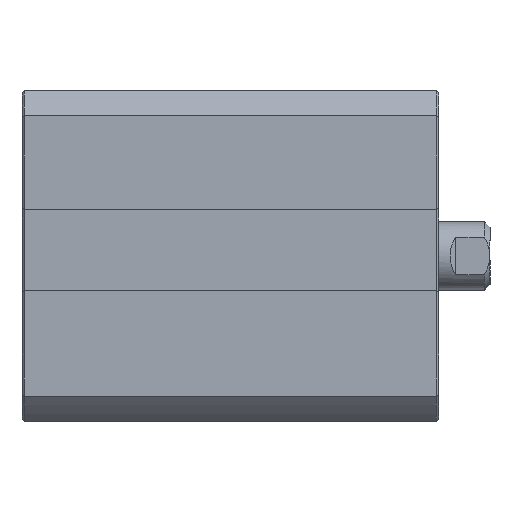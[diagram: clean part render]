
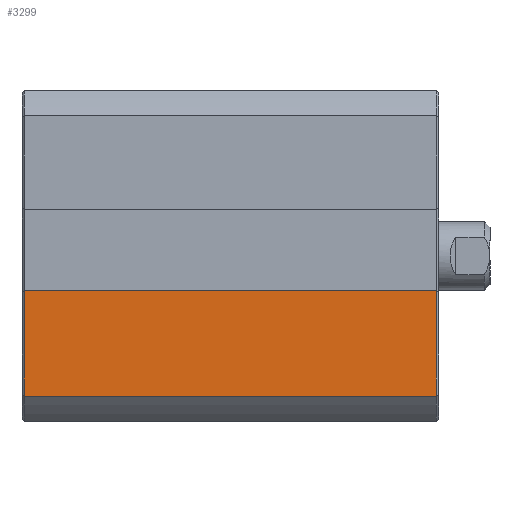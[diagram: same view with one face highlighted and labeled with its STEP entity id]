
A CAD part, left-side view. The second image highlights one B-rep face of the part: STEP entity #3299.
In plain terms, the highlighted planar face has unit normal (-1, 0, 0).
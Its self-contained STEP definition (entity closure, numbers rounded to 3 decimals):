
#85=LINE('',#4631,#270);
#87=LINE('',#4635,#272);
#88=LINE('',#4637,#273);
#89=LINE('',#4639,#274);
#270=VECTOR('',#3965,1000.);
#272=VECTOR('',#3969,1000.);
#273=VECTOR('',#3970,1000.);
#274=VECTOR('',#3971,1000.);
#465=PLANE('',#3527);
#768=ORIENTED_EDGE('',*,*,#1258,.F.);
#769=ORIENTED_EDGE('',*,*,#1260,.T.);
#770=ORIENTED_EDGE('',*,*,#1261,.T.);
#771=ORIENTED_EDGE('',*,*,#1262,.T.);
#1258=EDGE_CURVE('',#1529,#1530,#85,.T.);
#1260=EDGE_CURVE('',#1529,#1531,#87,.T.);
#1261=EDGE_CURVE('',#1531,#1532,#88,.T.);
#1262=EDGE_CURVE('',#1532,#1530,#89,.T.);
#1529=VERTEX_POINT('',#4630);
#1530=VERTEX_POINT('',#4632);
#1531=VERTEX_POINT('',#4636);
#1532=VERTEX_POINT('',#4638);
#1828=EDGE_LOOP('',(#768,#769,#770,#771));
#2030=FACE_BOUND('',#1828,.T.);
#3299=ADVANCED_FACE('',(#2030),#465,.T.);
#3527=AXIS2_PLACEMENT_3D('',#4634,#3967,#3968);
#3965=DIRECTION('',(0.,-1.,0.));
#3967=DIRECTION('',(-1.,0.,0.));
#3968=DIRECTION('',(0.,0.,1.));
#3969=DIRECTION('',(0.,0.,-1.));
#3970=DIRECTION('',(0.,-1.,0.));
#3971=DIRECTION('',(0.,0.,1.));
#4630=CARTESIAN_POINT('',(-14.5,36.3,-3.));
#4631=CARTESIAN_POINT('',(-14.5,26.5,-3.));
#4632=CARTESIAN_POINT('',(-14.5,0.2,-3.));
#4634=CARTESIAN_POINT('',(-14.5,26.5,-12.278));
#4635=CARTESIAN_POINT('',(-14.5,36.3,-12.278));
#4636=CARTESIAN_POINT('',(-14.5,36.3,-12.278));
#4637=CARTESIAN_POINT('',(-14.5,26.5,-12.278));
#4638=CARTESIAN_POINT('',(-14.5,0.2,-12.278));
#4639=CARTESIAN_POINT('',(-14.5,0.2,-12.278));
